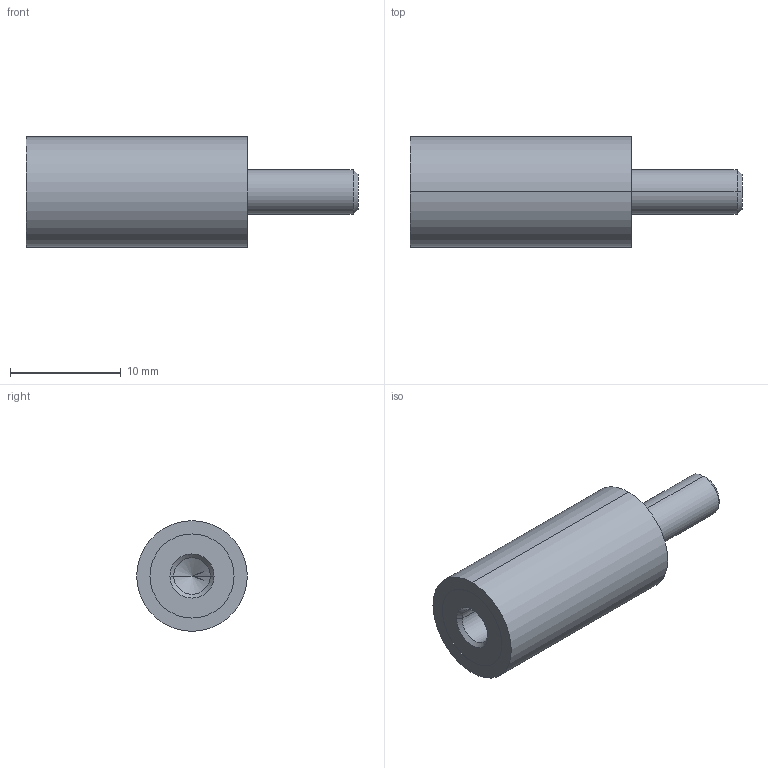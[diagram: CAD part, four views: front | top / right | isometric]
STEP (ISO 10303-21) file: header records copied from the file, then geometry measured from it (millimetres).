
FILE_DESCRIPTION (( 'STEP AP214' ), '1' );
FILE_NAME ('351-10-20-M4-ES-55.step', '2025-07-23T09:49:30', ( '' ), ( '' ), 'SwSTEP 2.0', 'SolidWorks 2022', '' );
FILE_SCHEMA (( 'AUTOMOTIVE_DESIGN' ));
Length unit declared in the file: millimetre
Products named in the file (1): 351-10-20-M4-ES-55
Bounding box: 30 x 10 x 10 mm (x, y, z)
Volume: 1648.6 mm3; surface area: 959.1 mm2
Topology: 1 solids, 1 shells, 24 faces, 48 edges, 29 vertices
Faces by surface type: cylinder 12, cone 6, plane 6
Entity records: 740 total; most frequent: DIRECTION 124, CARTESIAN_POINT 100, ORIENTED_EDGE 92, AXIS2_PLACEMENT_3D 53, EDGE_CURVE 46, EDGE_LOOP 29, VERTEX_POINT 29, CIRCLE 28
